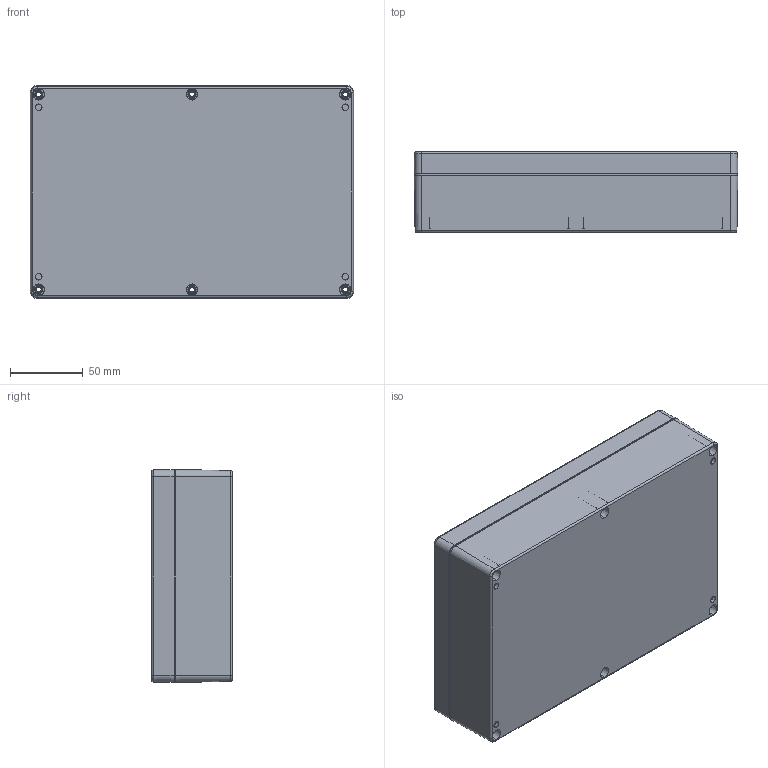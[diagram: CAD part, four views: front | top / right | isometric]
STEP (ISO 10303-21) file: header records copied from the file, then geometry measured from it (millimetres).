
FILE_DESCRIPTION (( 'STEP AP203' ), '1' );
FILE_NAME ('SE-256-0-0.STEP', '2020-01-09T05:28:08', ( '' ), ( '' ), 'SwSTEP 2.0', 'SolidWorks 2020', '' );
FILE_SCHEMA (( 'CONFIG_CONTROL_DESIGN' ));
Length unit declared in the file: millimetre
Products named in the file (4): SE-256-P-1; SE-256_pcb_sample; SE-256-0-0; SE-256-P-2
Assembly tree (3 placements, depth 2):
  SE-256-0-0
    SE-256-P-2
    SE-256-P-1
    SE-256_pcb_sample
Bounding box: 222 x 55.4 x 146 mm (x, y, z)
Volume: 378048.4 mm3; surface area: 288906.9 mm2
Topology: 13 solids, 13 shells, 1719 faces, 4557 edges, 2964 vertices
Faces by surface type: bspline 590, cylinder 470, plane 374, cone 277, torus 8
Entity records: 59999 total; most frequent: CARTESIAN_POINT 20010, ORIENTED_EDGE 9102, DIRECTION 7177, EDGE_CURVE 4551, VERTEX_POINT 2964, AXIS2_PLACEMENT_3D 2617, LINE 1943, VECTOR 1943
